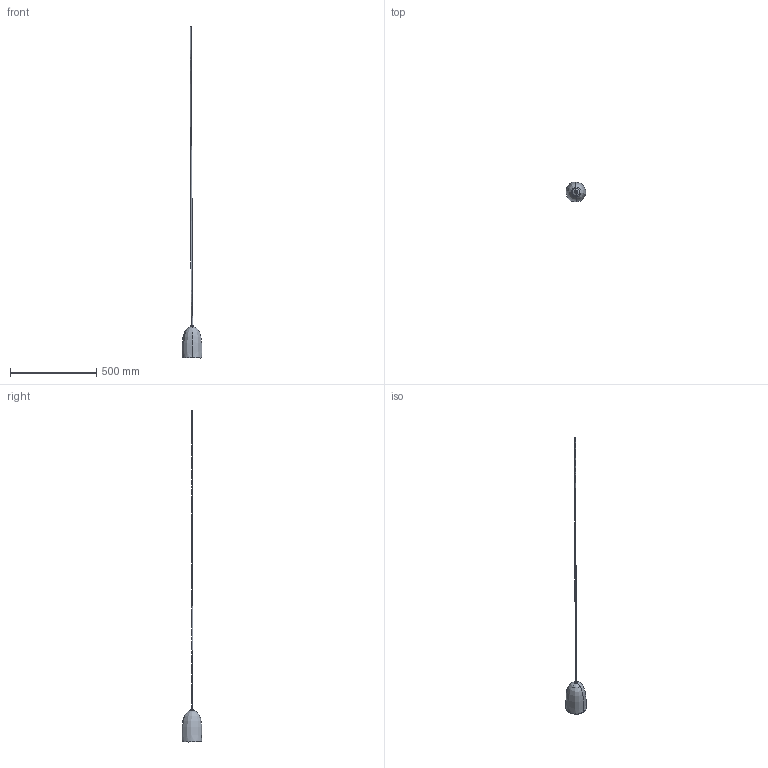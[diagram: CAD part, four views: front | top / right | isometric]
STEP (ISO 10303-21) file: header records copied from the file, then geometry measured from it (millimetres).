
FILE_DESCRIPTION(/* description */ (''),/* implementation_level */ '2;1');
FILE_NAME(/* name */ 'Speckle Pendant Small_3D',/* time_stamp */ '2021-05-03T15:37:57+02:00',/* author */ (''),/* organization */ (''),/* preprocessor_version */ 'ST-DEVELOPER v16.5',/* originating_system */ '',/* authorisation */ '');
FILE_SCHEMA (('CONFIG_CONTROL_DESIGN'));
Length unit declared in the file: millimetre
Products named in the file (1): Document
Bounding box: 114.55 x 115.1 x 1925.08 mm (x, y, z)
Volume: 578689.3 mm3; surface area: 202584.9 mm2
Topology: 6 solids, 6 shells, 54 faces, 134 edges, 76 vertices
Faces by surface type: bspline 34, cylinder 14, plane 6
Entity records: 11576 total; most frequent: CARTESIAN_POINT 10741, ORIENTED_EDGE 252, EDGE_CURVE 126, VERTEX_POINT 76, EDGE_LOOP 56, ADVANCED_FACE 54, FACE_OUTER_BOUND 54, B_SPLINE_CURVE_WITH_KNOTS 45
